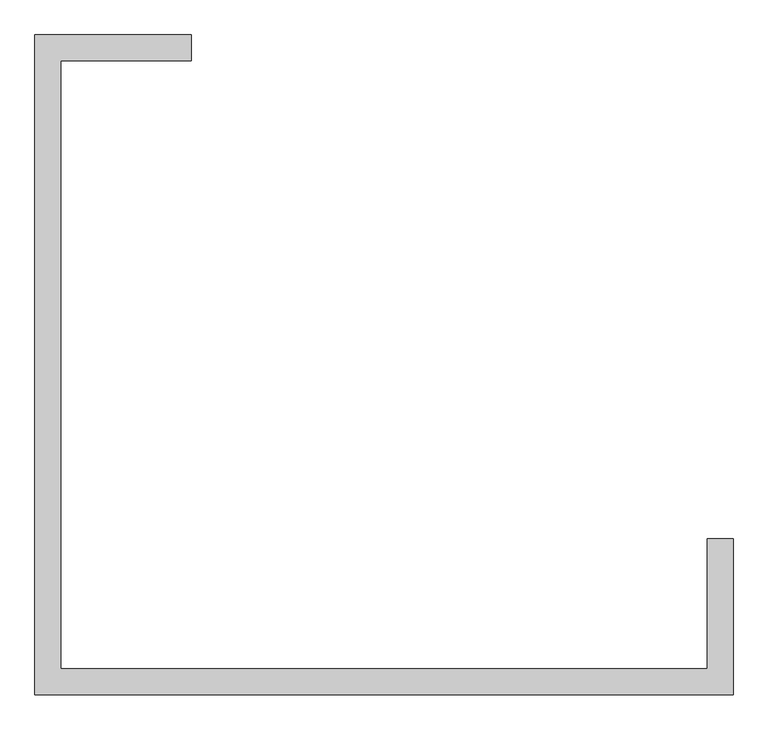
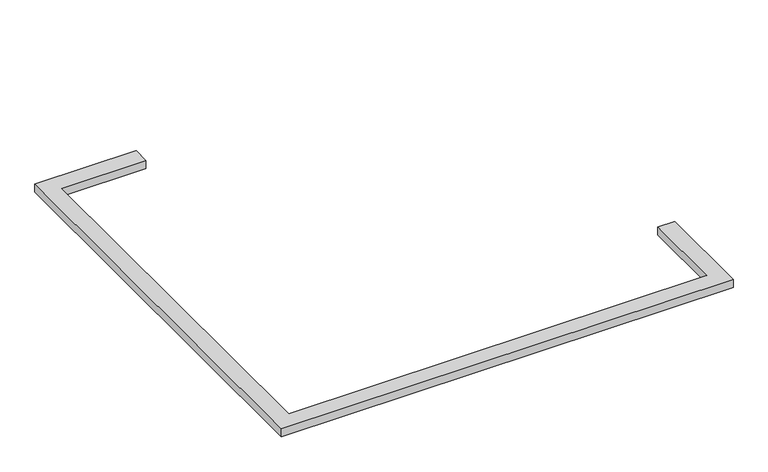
"""IFC4 building model written with IfcOpenShell, lengths in millimetres: stair geometry, 楼梯 1 : 楼梯 1."""

from ifc_helpers import new_model, si_unit, frame, origin, place, context, project, spatial, polyline, outline, extrude, source, transform, mapped, element, save


def stair_686c99e5(model_context):
    return source(origin(), model_context, "Body", "SweptSolid", [
        extrude(outline(polyline([(-3674.8947527, -4448.768361), (-3674.8947527, -4748.768361), (-5174.8947527, -4748.768361), (-5174.8947527, -11748.768361), (2265.1052473, -11748.768361), (2265.1052473, -10248.768361), (2565.1052473, -10248.768361), (2565.1052473, -12048.768361), (-5474.8947527, -12048.768361), (-5474.8947527, -4448.768361), (-3674.8947527, -4448.768361)])), frame((0.0, 0.0, -300.0), z_axis=(0.0, 0.0, 1.0), x_axis=(1.0, 0.0, 0.0)), (0.0, 0.0, 1.0), 150.0),
    ])


if __name__ == "__main__":
    model = new_model("IFC4")
    model_context = context("Model", 3, world=origin())
    ifc_project = project(units=[si_unit("LENGTHUNIT", "METRE", prefix="MILLI")], contexts=[model_context])
    site = spatial("IfcSite", under=ifc_project)
    building = spatial("IfcBuilding", under=site)
    placement = place(None, origin())
    stair_shape = stair_686c99e5(model_context)
    element("IfcStair", 1, ObjectType="楼梯 1 : 楼梯 1", at=placement, inside=building, context=model_context, shape_type="MappedRepresentation", body=[
        mapped(stair_shape, transform((0.0, 0.0, 0.0), x_axis=(1.0, 0.0, 0.0), y_axis=(0.0, 1.0, 0.0), z_axis=(0.0, 0.0, 1.0))),
    ])
    save(model, "model.ifc")
